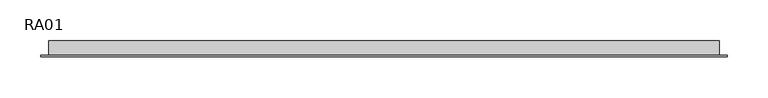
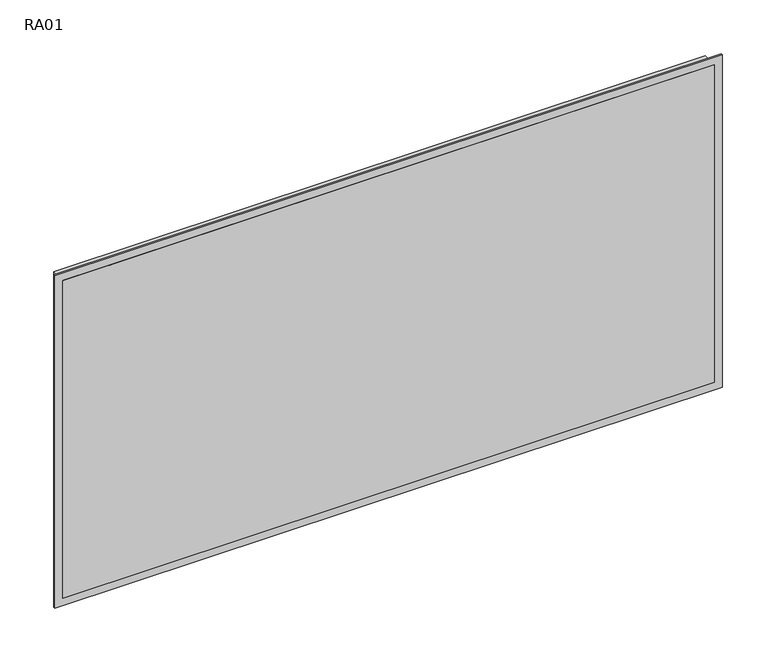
"""IFC4 building model written with IfcOpenShell, lengths in millimetres: air terminal geometry, ZYR_03.06.04.01 Reixa Paret Sobrepressio : RA01."""

import ifcopenshell
import ifcopenshell.guid

model = None  # the IFC model being written
_history = None  # IfcOwnerHistory: only IFC2X3 demands one
_inside = {}  # id of a spatial element -> (the spatial element, [elements in it])
_under = {}  # id of a project, library or spatial element -> (it, [spatial elements below it])
_declared = {}  # id of a project -> (the project, [libraries it declares])
_typed = {}  # id of a type object -> (the type object, [elements of that type])
_made_of = {}  # id of a material, layer set ... -> (it, [elements and type objects made of it])


def new_model(schema):
    """Start an empty IFC model of exactly this schema.

    Asked for "IFC4X3", IfcOpenShell would pick the latest addendum, in which some entities
    have other attributes; the version numbers below select the first issue.
    IFC2X3 requires an IfcOwnerHistory on every rooted entity: one is made here for all.
    """
    global model, _history
    if schema == "IFC4X3":
        model = ifcopenshell.file(schema_version=(4, 3, 0, 0))
    else:
        model = ifcopenshell.file(schema=schema)
    _inside.clear()
    _under.clear()
    _declared.clear()
    _typed.clear()
    _made_of.clear()
    _history = None
    if model.schema == "IFC2X3":
        org = make("IfcOrganization", Name="unknown")
        user = make(
            "IfcPersonAndOrganization",
            ThePerson=make("IfcPerson", FamilyName="unknown"),
            TheOrganization=org,
        )
        app = make(
            "IfcApplication",
            ApplicationDeveloper=org,
            Version="unknown",
            ApplicationFullName="unknown",
            ApplicationIdentifier="unknown",
        )
        _history = make(
            "IfcOwnerHistory",
            OwningUser=user,
            OwningApplication=app,
            ChangeAction="ADDED",
            CreationDate=0,
        )
    return model


def make(cls, **values):
    """One entity of the class cls with the attributes given. An attribute that is None is left unset."""
    return model.create_entity(
        cls, **{name: value for name, value in values.items() if value is not None}
    )


def rooted(cls, **values):
    """An entity with a GlobalId (a new one), such as an element, a storey or a relation."""
    return make(cls, GlobalId=ifcopenshell.guid.new(), OwnerHistory=_history, **values)


def si_unit(unit_type, name, prefix=None):
    """IfcSIUnit, for example si_unit("LENGTHUNIT", "METRE", prefix="MILLI")."""
    return make("IfcSIUnit", UnitType=unit_type, Prefix=prefix, Name=name)


def assignment(units):
    """IfcUnitAssignment: the units of a project."""
    return None if units is None else make("IfcUnitAssignment", Units=units)


def point(xyz):
    """IfcCartesianPoint."""
    return None if xyz is None else make("IfcCartesianPoint", Coordinates=xyz)


def direction(xyz):
    """IfcDirection."""
    return None if xyz is None else make("IfcDirection", DirectionRatios=xyz)


def frame(location, z_axis=None, x_axis=None):
    """IfcAxis2Placement3D, a coordinate frame: its origin and axes. An axis left out is left unset."""
    return make(
        "IfcAxis2Placement3D",
        Location=point(location),
        Axis=direction(z_axis),
        RefDirection=direction(x_axis),
    )


def origin():
    """The frame at (0, 0, 0) with its axes left unset."""
    return frame((0.0, 0.0, 0.0))


def place(relative_to, where):
    """IfcLocalPlacement: puts the frame where relative to a parent placement (None: the world)."""
    return make(
        "IfcLocalPlacement", PlacementRelTo=relative_to, RelativePlacement=where
    )


def context(
    kind, dimensions, precision=None, world=None, true_north=None, identifier=None
):
    """IfcGeometricRepresentationContext, for example the 3D "Model" context."""
    return make(
        "IfcGeometricRepresentationContext",
        ContextIdentifier=identifier,
        ContextType=kind,
        CoordinateSpaceDimension=dimensions,
        Precision=precision,
        WorldCoordinateSystem=world,
        TrueNorth=true_north,
    )


def project(units=None, contexts=None):
    """IfcProject with its units and contexts."""
    return rooted(
        "IfcProject",
        Name="project",
        RepresentationContexts=contexts,
        UnitsInContext=assignment(units),
    )


def spatial(cls, under=None, at=None, **own):
    """A site, building, storey or space (cls), placed at a placement, below another one or the project."""
    s = rooted(cls, ObjectPlacement=at, **own)
    if under is not None:
        _under.setdefault(under.id(), (under, []))[1].append(s)
    return s


def polyline(points):
    """IfcPolyline through the points."""
    return make("IfcPolyline", Points=[point(p) for p in points])


def outline(outer, holes=None, kind="AREA"):
    """IfcArbitraryClosedProfileDef: a profile drawn as a closed curve; with holes, ...WithVoids."""
    if holes is None:
        return make("IfcArbitraryClosedProfileDef", ProfileType=kind, OuterCurve=outer)
    return make(
        "IfcArbitraryProfileDefWithVoids",
        ProfileType=kind,
        OuterCurve=outer,
        InnerCurves=holes,
    )


def extrude(swept, where, along, depth):
    """IfcExtrudedAreaSolid: the profile swept, set in the frame where, extruded along a direction by depth."""
    return make(
        "IfcExtrudedAreaSolid",
        SweptArea=swept,
        Position=where,
        ExtrudedDirection=direction(along),
        Depth=depth,
    )


def shape(context_of_items, identifier, shape_type, items):
    """IfcShapeRepresentation: the items that make up one representation, for example the "Body"."""
    return make(
        "IfcShapeRepresentation",
        ContextOfItems=context_of_items,
        RepresentationIdentifier=identifier,
        RepresentationType=shape_type,
        Items=items,
    )


def source(mapping_origin, context_of_items, identifier, shape_type, items):
    """IfcRepresentationMap: a shape defined once, which mapped items show again and again."""
    return make(
        "IfcRepresentationMap",
        MappingOrigin=mapping_origin,
        MappedRepresentation=shape(context_of_items, identifier, shape_type, items),
    )


def transform(
    local_origin,
    x_axis=None,
    y_axis=None,
    z_axis=None,
    scale=None,
    scale2=None,
    scale3=None,
    uniform=True,
):
    """IfcCartesianTransformationOperator3D, or its non-uniform kind. x_axis, y_axis, z_axis: its Axis1, 2, 3."""
    if uniform:
        return make(
            "IfcCartesianTransformationOperator3D",
            Axis1=direction(x_axis),
            Axis2=direction(y_axis),
            LocalOrigin=point(local_origin),
            Scale=scale,
            Axis3=direction(z_axis),
        )
    return make(
        "IfcCartesianTransformationOperator3DnonUniform",
        Axis1=direction(x_axis),
        Axis2=direction(y_axis),
        LocalOrigin=point(local_origin),
        Scale=scale,
        Axis3=direction(z_axis),
        Scale2=scale2,
        Scale3=scale3,
    )


def mapped(mapping_source, mapping_target):
    """IfcMappedItem: shows the shape of a source again, moved by a transform."""
    return make(
        "IfcMappedItem", MappingSource=mapping_source, MappingTarget=mapping_target
    )


def made_of(thing, what):
    """Note that an element or type object is made of a material, layer set ...; save() writes the relation."""
    if what is not None:
        _made_of.setdefault(what.id(), (what, []))[1].append(thing)
    return thing


def element(
    cls,
    number,
    at=None,
    inside=None,
    cuts=None,
    type_object=None,
    material=None,
    context=None,
    identifier="Body",
    shape_type=None,
    held_by="IfcProductDefinitionShape",
    body=None,
    shapes=None,
    **own,
):
    """One element of the class cls, such as IfcWall. Its Tag is "e" and its number.

    at: its placement. inside: the storey or other place that contains it. cuts: it is an
    opening in that element (IfcRelVoidsElement). A single representation is given by context,
    identifier, shape_type and body (its items); several are given by shapes. held_by: the class
    of the entity that holds the representations. save() writes the other relations.
    """
    e = rooted(cls, Tag="e%d" % number, ObjectPlacement=at, **own)
    if body is not None:
        shapes = [shape(context, identifier, shape_type, body)]
    if shapes is not None:
        e.Representation = make(held_by, Representations=shapes)
    if inside is not None:
        _inside.setdefault(inside.id(), (inside, []))[1].append(e)
    if cuts is not None:
        rooted(
            "IfcRelVoidsElement", RelatingBuildingElement=cuts, RelatedOpeningElement=e
        )
    if type_object is not None:
        _typed.setdefault(type_object.id(), (type_object, []))[1].append(e)
    return made_of(e, material)


def aggregate(whole, parts):
    """IfcRelAggregates: a whole, such as a stair, and the parts it consists of."""
    return rooted("IfcRelAggregates", RelatingObject=whole, RelatedObjects=parts)


def save(model, path):
    """Write the relations noted so far, then the file.

    IfcRelAggregates (storeys below a building ...), IfcRelContainedInSpatialStructure (elements
    in a storey), IfcRelDefinesByType, IfcRelAssociatesMaterial and IfcRelDeclares: one each for
    every whole, place, type object, material and project.
    """
    for whole, parts in _under.values():
        aggregate(whole, parts)
    for where, things in _inside.values():
        rooted(
            "IfcRelContainedInSpatialStructure",
            RelatedElements=things,
            RelatingStructure=where,
        )
    for kind, things in _typed.values():
        rooted("IfcRelDefinesByType", RelatedObjects=things, RelatingType=kind)
    for what, things in _made_of.values():
        rooted("IfcRelAssociatesMaterial", RelatedObjects=things, RelatingMaterial=what)
    for by, libraries in _declared.values():
        rooted("IfcRelDeclares", RelatingContext=by, RelatedDefinitions=libraries)
    model.write(path)


def ra01_fee00206(model_context):
    return source(origin(), model_context, "Body", "SweptSolid", [
        extrude(outline(polyline([(412.5, 0.0), (-412.5, 0.0), (-412.5, 20.0), (412.5, 20.0), (412.5, 0.0)])), frame((0.0, 0.0, -212.5), z_axis=(0.0, 0.0, 1.0), x_axis=(1.0, 0.0, 0.0)), (0.0, 0.0, 1.0), 425.0),
        extrude(outline(polyline([(222.5, 422.5), (222.5, -422.5), (-222.5, -422.5), (-222.5, 422.5), (222.5, 422.5)]), holes=[polyline([(212.5, 412.5), (-212.5, 412.5), (-212.5, -412.5), (212.5, -412.5), (212.5, 412.5)])]), frame((0.0, 0.0, 0.0), z_axis=(0.0, 1.0, 0.0), x_axis=(0.0, 0.0, 1.0)), (0.0, 0.0, 1.0), 2.0),
    ])


if __name__ == "__main__":
    model = new_model("IFC4")
    model_context = context("Model", 3, world=origin())
    ifc_project = project(units=[si_unit("LENGTHUNIT", "METRE", prefix="MILLI")], contexts=[model_context])
    site = spatial("IfcSite", under=ifc_project)
    building = spatial("IfcBuilding", under=site)
    placement = place(None, origin())
    ra01_shape = ra01_fee00206(model_context)
    element("IfcAirTerminal", 1, ObjectType="ZYR_03.06.04.01 Reixa Paret Sobrepressio : RA01", at=placement, inside=building, context=model_context, shape_type="MappedRepresentation", body=[
        mapped(ra01_shape, transform((0.0, 0.0, 0.0), x_axis=(1.0, 0.0, 0.0), y_axis=(0.0, 1.0, 0.0), z_axis=(0.0, 0.0, 1.0))),
    ])
    save(model, "model.ifc")
